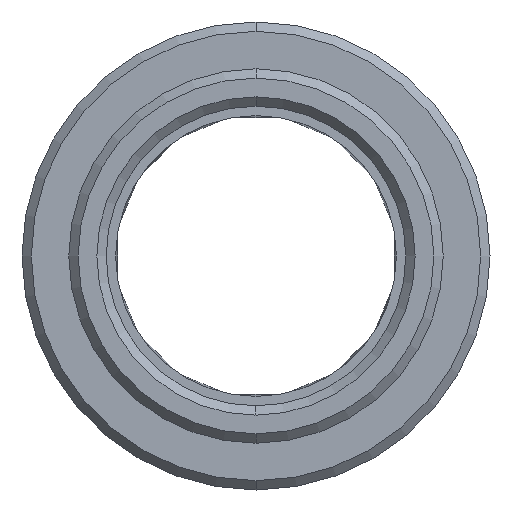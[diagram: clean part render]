
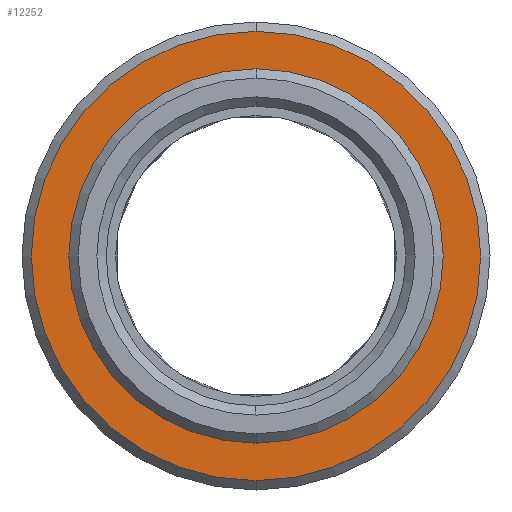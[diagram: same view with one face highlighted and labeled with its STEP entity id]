
A CAD part, left-side view. The second image highlights one B-rep face of the part: STEP entity #12252.
In plain terms, the highlighted planar face has unit normal (-1, 0, 0).
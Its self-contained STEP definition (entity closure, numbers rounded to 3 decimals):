
#4808=CARTESIAN_POINT('',(0.,0.,0.));
#4809=DIRECTION('',(1.,0.,0.));
#4810=DIRECTION('',(0.,0.,1.));
#4811=AXIS2_PLACEMENT_3D('',#4808,#4809,#4810);
#4813=CARTESIAN_POINT('',(0.,0.,0.));
#4814=DIRECTION('',(-1.,0.,0.));
#4815=DIRECTION('',(0.,0.,1.));
#4816=AXIS2_PLACEMENT_3D('',#4813,#4814,#4815);
#4818=CARTESIAN_POINT('',(0.,0.,
0.));
#4819=DIRECTION('',(1.,0.,0.));
#4820=DIRECTION('',(0.,0.,-1.));
#4821=AXIS2_PLACEMENT_3D('',#4818,#4819,#4820);
#4823=CARTESIAN_POINT('',(0.,0.,
0.));
#4824=DIRECTION('',(1.,0.,0.));
#4825=DIRECTION('',(0.,0.,1.));
#4826=AXIS2_PLACEMENT_3D('',#4823,#4824,#4825);
#9802=CARTESIAN_POINT('',(0.,0.,-12.));
#9803=CARTESIAN_POINT('',(0.,0.,12.));
#9804=VERTEX_POINT('',#9802);
#9805=VERTEX_POINT('',#9803);
#10112=CARTESIAN_POINT('',(0.,0.,10.));
#10113=CARTESIAN_POINT('',(0.,0.,-10.));
#10114=VERTEX_POINT('',#10112);
#10115=VERTEX_POINT('',#10113);
#12237=CARTESIAN_POINT('',(0.,0.,0.));
#12238=DIRECTION('',(1.,0.,0.));
#12239=DIRECTION('',(0.,0.,1.));
#12240=AXIS2_PLACEMENT_3D('',#12237,#12238,#12239);
#12241=PLANE('',#12240);
#12243=ORIENTED_EDGE('',*,*,#12242,.T.);
#12245=ORIENTED_EDGE('',*,*,#12244,.T.);
#12246=EDGE_LOOP('',(#12243,#12245));
#12247=FACE_OUTER_BOUND('',#12246,.F.);
#12248=ORIENTED_EDGE('',*,*,#12204,.F.);
#12249=ORIENTED_EDGE('',*,*,#12219,.T.);
#12250=EDGE_LOOP('',(#12248,#12249));
#12251=FACE_BOUND('',#12250,.F.);
#12252=ADVANCED_FACE('',(#12247,#12251),#12241,.F.);
#4812=CIRCLE('',#4811,10.);
#4817=CIRCLE('',#4816,10.);
#4822=CIRCLE('',#4821,12.);
#4827=CIRCLE('',#4826,12.);
#12204=EDGE_CURVE('',#10114,#10115,#4812,.T.);
#12219=EDGE_CURVE('',#10114,#10115,#4817,.T.);
#12242=EDGE_CURVE('',#9804,#9805,#4822,.T.);
#12244=EDGE_CURVE('',#9805,#9804,#4827,.T.);
